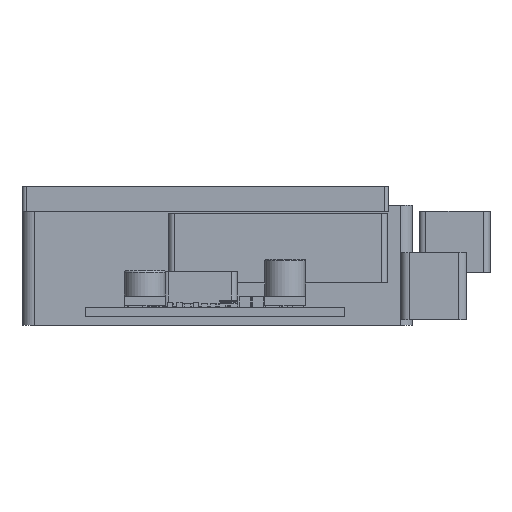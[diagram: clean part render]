
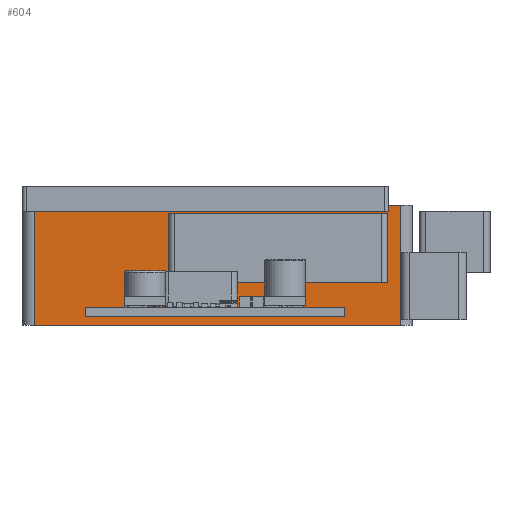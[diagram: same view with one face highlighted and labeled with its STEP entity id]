
A CAD part, front view. The second image highlights one B-rep face of the part: STEP entity #604.
In plain terms, the highlighted planar face has unit normal (0, -1, 0).
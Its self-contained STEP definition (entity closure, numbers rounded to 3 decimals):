
#82 = PLANE('',#83);
#83 = AXIS2_PLACEMENT_3D('',#84,#85,#86);
#84 = CARTESIAN_POINT('',(47.5,-76.,-11.8));
#85 = DIRECTION('',(0.,0.,1.));
#86 = DIRECTION('',(1.,0.,0.));
#110 = CYLINDRICAL_SURFACE('',#111,2.);
#111 = AXIS2_PLACEMENT_3D('',#112,#113,#114);
#112 = CARTESIAN_POINT('',(49.5,-74.,-31.8));
#113 = DIRECTION('',(0.,0.,1.));
#114 = DIRECTION('',(-1.,-0.,0.));
#138 = PLANE('',#139);
#139 = AXIS2_PLACEMENT_3D('',#140,#141,#142);
#140 = CARTESIAN_POINT('',(47.5,-76.,-31.8));
#141 = DIRECTION('',(0.,0.,1.));
#142 = DIRECTION('',(1.,0.,0.));
#181 = VERTEX_POINT('',#182);
#182 = CARTESIAN_POINT('',(49.5,-76.,-11.8));
#204 = EDGE_CURVE('',#181,#205,#207,.T.);
#205 = VERTEX_POINT('',#206);
#206 = CARTESIAN_POINT('',(110.5,-76.,-11.8));
#207 = SURFACE_CURVE('',#208,(#212,#219),.PCURVE_S1.);
#208 = LINE('',#209,#210);
#209 = CARTESIAN_POINT('',(47.5,-76.,-11.8));
#210 = VECTOR('',#211,1.);
#211 = DIRECTION('',(1.,0.,0.));
#212 = PCURVE('',#82,#213);
#213 = DEFINITIONAL_REPRESENTATION('',(#214),#218);
#214 = LINE('',#215,#216);
#215 = CARTESIAN_POINT('',(0.,0.));
#216 = VECTOR('',#217,1.);
#217 = DIRECTION('',(1.,0.));
#218 = ( GEOMETRIC_REPRESENTATION_CONTEXT(2) 
PARAMETRIC_REPRESENTATION_CONTEXT() REPRESENTATION_CONTEXT('2D SPACE',''
  ) );
#219 = PCURVE('',#220,#225);
#220 = PLANE('',#221);
#221 = AXIS2_PLACEMENT_3D('',#222,#223,#224);
#222 = CARTESIAN_POINT('',(47.5,-76.,-31.8));
#223 = DIRECTION('',(0.,1.,0.));
#224 = DIRECTION('',(0.,0.,1.));
#225 = DEFINITIONAL_REPRESENTATION('',(#226),#230);
#226 = LINE('',#227,#228);
#227 = CARTESIAN_POINT('',(20.,0.));
#228 = VECTOR('',#229,1.);
#229 = DIRECTION('',(0.,1.));
#230 = ( GEOMETRIC_REPRESENTATION_CONTEXT(2) 
PARAMETRIC_REPRESENTATION_CONTEXT() REPRESENTATION_CONTEXT('2D SPACE',''
  ) );
#253 = CYLINDRICAL_SURFACE('',#254,2.);
#254 = AXIS2_PLACEMENT_3D('',#255,#256,#257);
#255 = CARTESIAN_POINT('',(110.5,-74.,-31.8));
#256 = DIRECTION('',(0.,0.,1.));
#257 = DIRECTION('',(1.,0.,-0.));
#380 = VERTEX_POINT('',#381);
#381 = CARTESIAN_POINT('',(49.5,-76.,-31.8));
#403 = EDGE_CURVE('',#380,#181,#404,.T.);
#404 = SURFACE_CURVE('',#405,(#409,#416),.PCURVE_S1.);
#405 = LINE('',#406,#407);
#406 = CARTESIAN_POINT('',(49.5,-76.,-31.8));
#407 = VECTOR('',#408,1.);
#408 = DIRECTION('',(0.,0.,1.));
#409 = PCURVE('',#110,#410);
#410 = DEFINITIONAL_REPRESENTATION('',(#411),#415);
#411 = LINE('',#412,#413);
#412 = CARTESIAN_POINT('',(1.571,0.));
#413 = VECTOR('',#414,1.);
#414 = DIRECTION('',(0.,1.));
#415 = ( GEOMETRIC_REPRESENTATION_CONTEXT(2) 
PARAMETRIC_REPRESENTATION_CONTEXT() REPRESENTATION_CONTEXT('2D SPACE',''
  ) );
#416 = PCURVE('',#220,#417);
#417 = DEFINITIONAL_REPRESENTATION('',(#418),#422);
#418 = LINE('',#419,#420);
#419 = CARTESIAN_POINT('',(0.,2.));
#420 = VECTOR('',#421,1.);
#421 = DIRECTION('',(1.,0.));
#422 = ( GEOMETRIC_REPRESENTATION_CONTEXT(2) 
PARAMETRIC_REPRESENTATION_CONTEXT() REPRESENTATION_CONTEXT('2D SPACE',''
  ) );
#485 = EDGE_CURVE('',#380,#486,#488,.T.);
#486 = VERTEX_POINT('',#487);
#487 = CARTESIAN_POINT('',(110.5,-76.,-31.8));
#488 = SURFACE_CURVE('',#489,(#493,#500),.PCURVE_S1.);
#489 = LINE('',#490,#491);
#490 = CARTESIAN_POINT('',(47.5,-76.,-31.8));
#491 = VECTOR('',#492,1.);
#492 = DIRECTION('',(1.,0.,0.));
#493 = PCURVE('',#138,#494);
#494 = DEFINITIONAL_REPRESENTATION('',(#495),#499);
#495 = LINE('',#496,#497);
#496 = CARTESIAN_POINT('',(0.,0.));
#497 = VECTOR('',#498,1.);
#498 = DIRECTION('',(1.,0.));
#499 = ( GEOMETRIC_REPRESENTATION_CONTEXT(2) 
PARAMETRIC_REPRESENTATION_CONTEXT() REPRESENTATION_CONTEXT('2D SPACE',''
  ) );
#500 = PCURVE('',#220,#501);
#501 = DEFINITIONAL_REPRESENTATION('',(#502),#506);
#502 = LINE('',#503,#504);
#503 = CARTESIAN_POINT('',(0.,0.));
#504 = VECTOR('',#505,1.);
#505 = DIRECTION('',(0.,1.));
#506 = ( GEOMETRIC_REPRESENTATION_CONTEXT(2) 
PARAMETRIC_REPRESENTATION_CONTEXT() REPRESENTATION_CONTEXT('2D SPACE',''
  ) );
#604 = ADVANCED_FACE('',(#605),#220,.F.);
#605 = FACE_BOUND('',#606,.F.);
#606 = EDGE_LOOP('',(#607,#608,#609,#610));
#607 = ORIENTED_EDGE('',*,*,#485,.F.);
#608 = ORIENTED_EDGE('',*,*,#403,.T.);
#609 = ORIENTED_EDGE('',*,*,#204,.T.);
#610 = ORIENTED_EDGE('',*,*,#611,.F.);
#611 = EDGE_CURVE('',#486,#205,#612,.T.);
#612 = SURFACE_CURVE('',#613,(#617,#624),.PCURVE_S1.);
#613 = LINE('',#614,#615);
#614 = CARTESIAN_POINT('',(110.5,-76.,-31.8));
#615 = VECTOR('',#616,1.);
#616 = DIRECTION('',(0.,0.,1.));
#617 = PCURVE('',#220,#618);
#618 = DEFINITIONAL_REPRESENTATION('',(#619),#623);
#619 = LINE('',#620,#621);
#620 = CARTESIAN_POINT('',(0.,63.));
#621 = VECTOR('',#622,1.);
#622 = DIRECTION('',(1.,0.));
#623 = ( GEOMETRIC_REPRESENTATION_CONTEXT(2) 
PARAMETRIC_REPRESENTATION_CONTEXT() REPRESENTATION_CONTEXT('2D SPACE',''
  ) );
#624 = PCURVE('',#253,#625);
#625 = DEFINITIONAL_REPRESENTATION('',(#626),#630);
#626 = LINE('',#627,#628);
#627 = CARTESIAN_POINT('',(-1.571,0.));
#628 = VECTOR('',#629,1.);
#629 = DIRECTION('',(-0.,1.));
#630 = ( GEOMETRIC_REPRESENTATION_CONTEXT(2) 
PARAMETRIC_REPRESENTATION_CONTEXT() REPRESENTATION_CONTEXT('2D SPACE',''
  ) );
